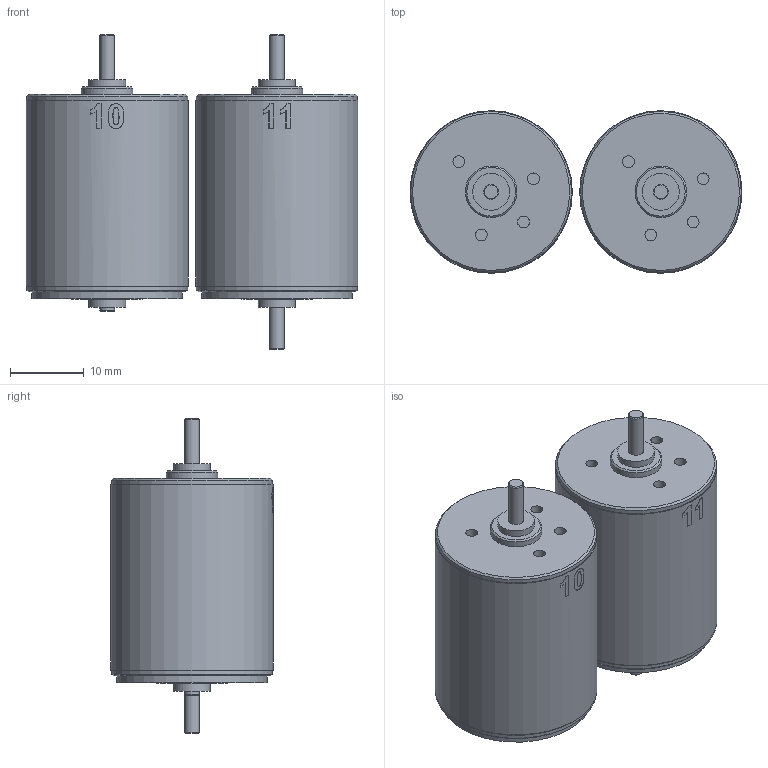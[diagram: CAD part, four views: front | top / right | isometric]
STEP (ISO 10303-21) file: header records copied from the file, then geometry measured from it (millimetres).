
FILE_DESCRIPTION(/* description */ (''),/* implementation_level */ '2;1');
FILE_NAME(/* name */ 'AM2224_10+11.stp',/* time_stamp */ '2020-09-03T10:10:55+02:00',/* author */ ('DR. FRITZ FAULHABER GmbH & Co. KG'),/* organization */ ('DR. FRITZ FAULHABER GmbH & Co. KG'),/* preprocessor_version */ 'ST-DEVELOPER v16.7',/* originating_system */ 'SIEMENS PLM Software NX 12.0',/* authorisation */ '');
FILE_SCHEMA (('AUTOMOTIVE_DESIGN { 1 0 10303 214 3 1 1 1 }'));
Length unit declared in the file: millimetre
Products named in the file (1): H99999999-A-Alle Motoren
Bounding box: 45 x 22 x 42.7 mm (x, y, z)
Volume: 21116.9 mm3; surface area: 5731.9 mm2
Topology: 2 solids, 2 shells, 256 faces, 555 edges, 368 vertices
Faces by surface type: plane 179, cylinder 43, extrusion 14, cone 12, bspline 8
Full cylindrical faces by diameter (mm): 1.6 x8, 2 x12, 5 x4, 7 x2, 10 x2, 10.2 x2, 20.4 x2, 21.8 x4, 22 x2
Entity records: 9056 total; most frequent: CARTESIAN_POINT 2778, ORIENTED_EDGE 994, DIRECTION 868, EDGE_CURVE 497, EDGE_LOOP 373, VERTEX_POINT 362, AXIS2_PLACEMENT_3D 329, ADVANCED_FACE 256
